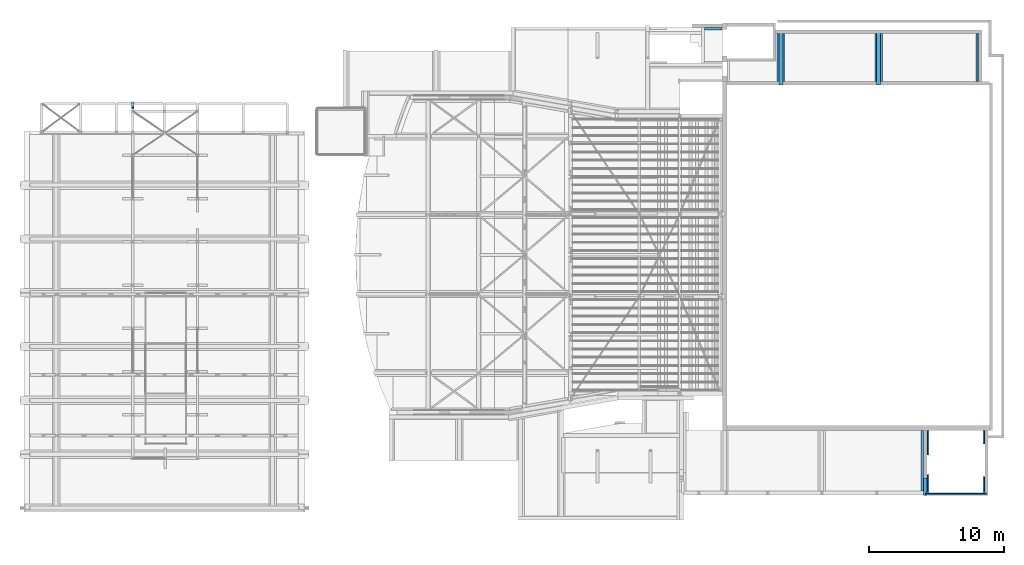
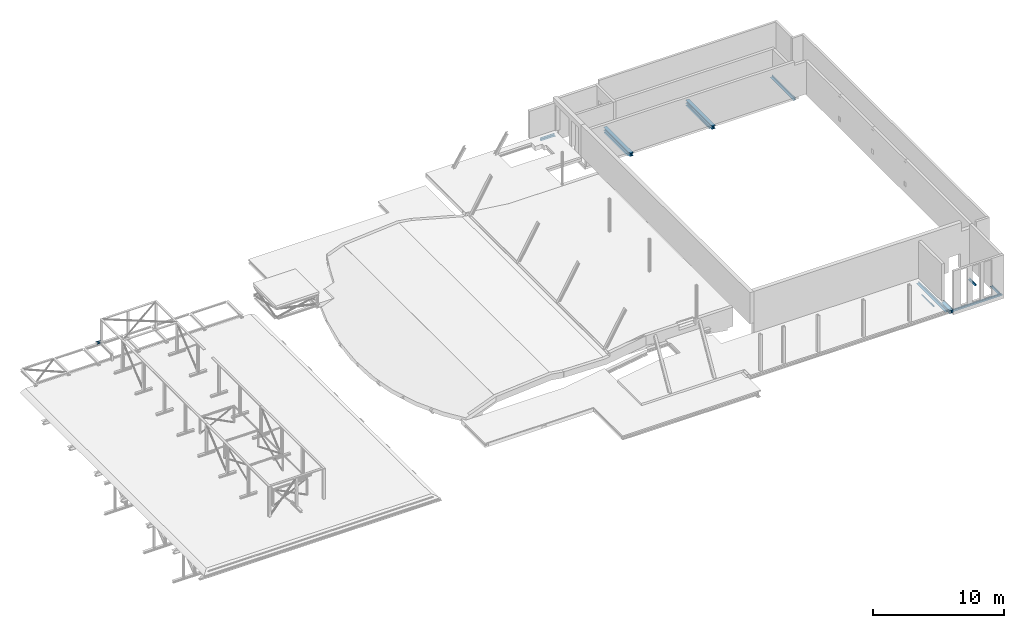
# One storey, part 34 of 50: 12 beams.
"""IFC2X3 building model written with IfcOpenShell, lengths in millimetres."""

from ifc_helpers import new_model, entity, si_unit, converted_unit, derived_unit, direction, frame, frame_2d, origin, place, context, subcontext, project, spatial, polyline, circle_curve, parameter, trimmed, segment, composite_curve, rectangle, i_section, outline, extrude, clip, halfspace, source, transform, mapped, material, material_list, type_object, type_shapes, element, save


model = new_model("IFC2X3")

# Units and contexts
model_context = context("Model", 3, precision=0.01, world=origin(), true_north=direction((6.12303176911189e-17, 1.0)))
body_context = subcontext(model_context, "Body", "Model", "MODEL_VIEW")
ifc_project = project(units=[si_unit("LENGTHUNIT", "METRE", prefix="MILLI"), si_unit("AREAUNIT", "SQUARE_METRE", prefix="MILLI"), si_unit("VOLUMEUNIT", "CUBIC_METRE"), converted_unit("PLANEANGLEUNIT", "DEGREE", entity("IfcRatioMeasure", 0.0174532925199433), si_unit("PLANEANGLEUNIT", "RADIAN"), dimensions=[0, 0, 0, 0, 0, 0, 0]), si_unit("MASSUNIT", "GRAM", prefix="KILO"), derived_unit("MASSDENSITYUNIT", [(si_unit("MASSUNIT", "GRAM", prefix="KILO"), 1), (si_unit("LENGTHUNIT", "METRE"), -3)]), derived_unit("MOMENTOFINERTIAUNIT", [(si_unit("LENGTHUNIT", "METRE"), 4)]), si_unit("TIMEUNIT", "SECOND"), si_unit("FREQUENCYUNIT", "HERTZ"), si_unit("THERMODYNAMICTEMPERATUREUNIT", "DEGREE_CELSIUS"), derived_unit("THERMALTRANSMITTANCEUNIT", [(si_unit("MASSUNIT", "GRAM", prefix="KILO"), 1), (si_unit("THERMODYNAMICTEMPERATUREUNIT", "KELVIN"), -1), (si_unit("TIMEUNIT", "SECOND"), -3)]), derived_unit("VOLUMETRICFLOWRATEUNIT", [(si_unit("LENGTHUNIT", "METRE"), 3), (si_unit("TIMEUNIT", "SECOND"), -1)]), si_unit("ELECTRICCURRENTUNIT", "AMPERE"), si_unit("ELECTRICVOLTAGEUNIT", "VOLT"), si_unit("POWERUNIT", "WATT"), si_unit("FORCEUNIT", "NEWTON", prefix="KILO"), si_unit("ILLUMINANCEUNIT", "LUX"), si_unit("LUMINOUSFLUXUNIT", "LUMEN"), si_unit("LUMINOUSINTENSITYUNIT", "CANDELA"), derived_unit("USERDEFINED", [(si_unit("MASSUNIT", "GRAM", prefix="KILO"), -1), (si_unit("LENGTHUNIT", "METRE"), -2), (si_unit("TIMEUNIT", "SECOND"), 3), (si_unit("LUMINOUSFLUXUNIT", "LUMEN"), 1)]), derived_unit("LINEARVELOCITYUNIT", [(si_unit("LENGTHUNIT", "METRE"), 1), (si_unit("TIMEUNIT", "SECOND"), -1)]), si_unit("PRESSUREUNIT", "PASCAL"), derived_unit("USERDEFINED", [(si_unit("LENGTHUNIT", "METRE"), -2), (si_unit("MASSUNIT", "GRAM", prefix="KILO"), 1), (si_unit("TIMEUNIT", "SECOND"), -2)]), derived_unit("LINEARFORCEUNIT", [(si_unit("MASSUNIT", "GRAM", prefix="KILO"), 1), (si_unit("LENGTHUNIT", "METRE"), 1), (si_unit("TIMEUNIT", "SECOND"), -2), (si_unit("LENGTHUNIT", "METRE"), -1)]), derived_unit("PLANARFORCEUNIT", [(si_unit("MASSUNIT", "GRAM", prefix="KILO"), 1), (si_unit("LENGTHUNIT", "METRE"), 1), (si_unit("TIMEUNIT", "SECOND"), -2), (si_unit("LENGTHUNIT", "METRE"), -2)])], contexts=[model_context])

# Site, building, storey
site_placement = place(None, origin())
site = spatial("IfcSite", under=ifc_project, at=site_placement, Name="Theater aan de Parade", CompositionType="ELEMENT")
building_placement = place(site_placement, origin())
building = spatial("IfcBuilding", under=site, at=building_placement, Name="Theater aan de Parade", CompositionType="ELEMENT")
storey_placement = place(building_placement, frame((0.0, 0.0, 15820.0)))
storey = spatial("IfcBuildingStorey", under=building, at=storey_placement, Name="04 vierde verdieping", CompositionType="ELEMENT", Elevation=15820.0)

# Beams
ifc_material_1 = material(Name="00_PBT_MAT_staal_S355")
beam_type_1 = type_object("IfcBeamType", Name="28_PBT_SF_staal_H-profiel (void):S355_HE280B", PredefinedType="NOTDEFINED")
beam_1_placement = place(storey_placement, frame((82360.0084217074, 15925.0, 0.0), z_axis=(0.0, 0.0, 1.0), x_axis=(0.0, -1.0, 0.0)))
element("IfcBeam", 1, at=beam_1_placement, inside=storey, type_object=beam_type_1, material=ifc_material_1, Name="28_PBT_SF_staal_H-profiel (void):S355_HE280B", ObjectType="28_PBT_SF_staal_H-profiel (void):S355_HE280B", context=body_context, shape_type="SweptSolid", body=[
    extrude(outline(composite_curve([segment(polyline([(122.0, -140.0), (140.0, -140.0)]), True, "CONTINUOUS"), segment(polyline([(140.0, -140.0), (140.0, 140.0)]), True, "CONTINUOUS"), segment(polyline([(140.0, 140.0), (122.0, 140.0)]), True, "CONTINUOUS"), segment(polyline([(122.0, 140.0), (122.0, 29.250000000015)]), True, "CONTINUOUS"), segment(trimmed(circle_curve(frame_2d((98.0, 29.2499999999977), x_axis=(1.0, 0.0)), 23.9999999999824), [parameter(269.999999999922)], [parameter(0.0)], True, "PARAMETER"), False, "CONTINUOUS"), segment(polyline([(98.0, 5.25000000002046), (-98.0, 5.25000000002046)]), True, "CONTINUOUS"), segment(trimmed(circle_curve(frame_2d((-98.0, 29.2499999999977), x_axis=(0.0, -1.0)), 23.9999999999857), [parameter(269.999999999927)], [parameter(0.0)], True, "PARAMETER"), False, "CONTINUOUS"), segment(polyline([(-122.0, 29.250000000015), (-122.0, 140.0)]), True, "CONTINUOUS"), segment(polyline([(-122.0, 140.0), (-140.0, 140.0)]), True, "CONTINUOUS"), segment(polyline([(-140.0, 140.0), (-140.0, -140.0)]), True, "CONTINUOUS"), segment(polyline([(-140.0, -140.0), (-122.0, -140.0)]), True, "CONTINUOUS"), segment(polyline([(-122.0, -140.0), (-122.0, -29.2499999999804)]), True, "CONTINUOUS"), segment(trimmed(circle_curve(frame_2d((-98.0, -29.249999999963), x_axis=(-1.0, 0.0)), 23.9999999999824), [parameter(269.999999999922)], [parameter(0.0)], True, "PARAMETER"), False, "CONTINUOUS"), segment(polyline([(-98.0, -5.24999999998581), (98.0, -5.24999999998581)]), True, "CONTINUOUS"), segment(trimmed(circle_curve(frame_2d((98.0, -29.249999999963), x_axis=(0.0, 1.0)), 23.9999999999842), [parameter(269.999999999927)], [parameter(0.0)], True, "PARAMETER"), False, "CONTINUOUS"), segment(polyline([(122.0, -29.2499999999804), (122.0, -140.0)]), True, "CONTINUOUS")], self_intersect=False)), frame((0.0, 0.0, 365.0), z_axis=(1.0, 0.0, 0.0), x_axis=(0.0, 0.0, -1.0)), (0.0, 0.0, 1.0), 1274.99999999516),
])
beam_type_2 = type_object("IfcBeamType", Name="28_PBT_SF_staal_L-profiel:S355_L150x150x15", PredefinedType="NOTDEFINED")
beam_2_placement = place(storey_placement, frame((82542.5084217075, 14850.0, 0.0), z_axis=(0.0, 0.0, 1.0), x_axis=(0.0, 1.0, 0.0)))
element("IfcBeam", 2, at=beam_2_placement, inside=storey, type_object=beam_type_2, material=ifc_material_1, Name="28_PBT_SF_staal_L-profiel:S355_L150x150x15", ObjectType="28_PBT_SF_staal_L-profiel:S355_L150x150x15", context=body_context, shape_type="SweptSolid", body=[
    extrude(outline(composite_curve([segment(polyline([(49.6666666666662, -93.3333333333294), (56.6666666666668, -93.3333333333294)]), True, "CONTINUOUS"), segment(polyline([(56.6666666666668, -93.3333333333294), (56.6666666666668, 56.6666666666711)]), True, "CONTINUOUS"), segment(polyline([(56.6666666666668, 56.6666666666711), (-93.3333333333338, 56.6666666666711)]), True, "CONTINUOUS"), segment(polyline([(-93.3333333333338, 56.6666666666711), (-93.3333333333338, 49.6666666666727)]), True, "CONTINUOUS"), segment(trimmed(circle_curve(frame_2d((-85.3333333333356, 49.6666666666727), x_axis=(-1.0, 0.0)), 7.99999999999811), [parameter(0.0)], [parameter(90.0000000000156)], True, "PARAMETER"), True, "CONTINUOUS"), segment(polyline([(-85.3333333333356, 41.6666666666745), (25.6666666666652, 41.6666666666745)]), True, "CONTINUOUS"), segment(trimmed(circle_curve(frame_2d((25.6666666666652, 25.6666666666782), x_axis=(0.0, 1.0)), 15.9999999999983), [parameter(270.0)], [parameter(0.0)], True, "PARAMETER"), False, "CONTINUOUS"), segment(polyline([(41.6666666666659, 25.6666666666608), (41.6666666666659, -85.3333333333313)]), True, "CONTINUOUS"), segment(trimmed(circle_curve(frame_2d((49.6666666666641, -85.3333333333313), x_axis=(-1.0, 0.0)), 7.99999999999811), [parameter(0.0)], [parameter(90.0000000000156)], True, "PARAMETER"), True, "CONTINUOUS")], self_intersect=False)), frame((0.0, -14.1666666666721, 431.666666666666), z_axis=(1.0, 0.0, 0.0), x_axis=(0.0, 0.0, -1.0)), (0.0, 0.0, 1.0), 1330.00004821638),
])
beam_3_placement = place(storey_placement, frame((82542.5084217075, 17648.44495211, 0.0), z_axis=(0.0, 0.0, 1.0), x_axis=(0.0, 1.0, 0.0)))
element("IfcBeam", 3, at=beam_3_placement, inside=storey, type_object=beam_type_2, material=ifc_material_1, Name="28_PBT_SF_staal_L-profiel:S355_L150x150x15", ObjectType="28_PBT_SF_staal_L-profiel:S355_L150x150x15", context=body_context, shape_type="SweptSolid", body=[
    extrude(outline(composite_curve([segment(polyline([(49.6666666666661, -93.3333333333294), (56.6666666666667, -93.3333333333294)]), True, "CONTINUOUS"), segment(polyline([(56.6666666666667, -93.3333333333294), (56.6666666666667, 56.6666666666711)]), True, "CONTINUOUS"), segment(polyline([(56.6666666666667, 56.6666666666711), (-93.3333333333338, 56.6666666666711)]), True, "CONTINUOUS"), segment(polyline([(-93.3333333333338, 56.6666666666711), (-93.3333333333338, 49.6666666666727)]), True, "CONTINUOUS"), segment(trimmed(circle_curve(frame_2d((-85.3333333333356, 49.6666666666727), x_axis=(-1.0, 0.0)), 7.99999999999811), [parameter(0.0)], [parameter(90.0000000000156)], True, "PARAMETER"), True, "CONTINUOUS"), segment(polyline([(-85.3333333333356, 41.6666666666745), (25.6666666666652, 41.6666666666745)]), True, "CONTINUOUS"), segment(trimmed(circle_curve(frame_2d((25.6666666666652, 25.6666666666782), x_axis=(0.0, 1.0)), 15.9999999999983), [parameter(270.0)], [parameter(0.0)], True, "PARAMETER"), False, "CONTINUOUS"), segment(polyline([(41.6666666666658, 25.6666666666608), (41.6666666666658, -85.3333333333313)]), True, "CONTINUOUS"), segment(trimmed(circle_curve(frame_2d((49.666666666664, -85.3333333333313), x_axis=(-1.0, 0.0)), 7.99999999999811), [parameter(0.0)], [parameter(90.0000000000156)], True, "PARAMETER"), True, "CONTINUOUS")], self_intersect=False)), frame((0.0, -14.1666666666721, -1003.33333333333), z_axis=(1.0, 0.0, 0.0), x_axis=(0.0, 0.0, -1.0)), (0.0, 0.0, 1.0), 1811.5552914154),
])
beam_4_placement = place(storey_placement, frame((86723.499999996, 18437.70736927, 0.0), z_axis=(0.0, 0.0, 1.0), x_axis=(0.0, 1.0, 0.0)))
element("IfcBeam", 4, at=beam_4_placement, inside=storey, type_object=beam_type_2, material=ifc_material_1, Name="28_PBT_SF_staal_L-profiel:S355_L150x150x15", ObjectType="28_PBT_SF_staal_L-profiel:S355_L150x150x15", context=body_context, shape_type="SweptSolid", body=[
    extrude(outline(composite_curve([segment(polyline([(-93.3333333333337, -56.6666666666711), (56.6666666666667, -56.6666666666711)]), True, "CONTINUOUS"), segment(polyline([(56.6666666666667, -56.6666666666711), (56.6666666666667, 93.3333333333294)]), True, "CONTINUOUS"), segment(polyline([(56.6666666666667, 93.3333333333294), (49.6666666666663, 93.3333333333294)]), True, "CONTINUOUS"), segment(trimmed(circle_curve(frame_2d((49.6666666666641, 85.3333333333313), x_axis=(0.0, 1.0)), 7.99999999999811), [parameter(0.0)], [parameter(90.0000000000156)], True, "PARAMETER"), True, "CONTINUOUS"), segment(polyline([(41.6666666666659, 85.3333333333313), (41.6666666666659, -25.6666666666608)]), True, "CONTINUOUS"), segment(trimmed(circle_curve(frame_2d((25.6666666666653, -25.6666666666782), x_axis=(1.0, 0.0)), 15.9999999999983), [parameter(270.0)], [parameter(0.0)], True, "PARAMETER"), False, "CONTINUOUS"), segment(polyline([(25.6666666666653, -41.6666666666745), (-85.3333333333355, -41.6666666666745)]), True, "CONTINUOUS"), segment(trimmed(circle_curve(frame_2d((-85.3333333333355, -49.6666666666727), x_axis=(0.0, 1.0)), 7.99999999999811), [parameter(0.0)], [parameter(90.0000000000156)], True, "PARAMETER"), True, "CONTINUOUS"), segment(polyline([(-93.3333333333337, -49.6666666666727), (-93.3333333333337, -56.6666666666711)]), True, "CONTINUOUS")], self_intersect=False)), frame((0.0, 14.1666666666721, -973.333333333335), z_axis=(1.0, 0.0, 0.0), x_axis=(0.0, 0.0, -1.0)), (0.0, 0.0, 1.0), 1022.29287425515),
])
beam_5_placement = place(storey_placement, frame((86723.499999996, 14850.0, 0.0), z_axis=(0.0, 0.0, 1.0), x_axis=(0.0, 1.0, 0.0)))
element("IfcBeam", 5, at=beam_5_placement, inside=storey, type_object=beam_type_2, material=ifc_material_1, Name="28_PBT_SF_staal_L-profiel:S355_L150x150x15", ObjectType="28_PBT_SF_staal_L-profiel:S355_L150x150x15", context=body_context, shape_type="SweptSolid", body=[
    extrude(outline(composite_curve([segment(polyline([(-93.3333333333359, -56.6666666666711), (56.6666666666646, -56.6666666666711)]), True, "CONTINUOUS"), segment(polyline([(56.6666666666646, -56.6666666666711), (56.6666666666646, 93.3333333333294)]), True, "CONTINUOUS"), segment(polyline([(56.6666666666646, 93.3333333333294), (49.6666666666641, 93.3333333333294)]), True, "CONTINUOUS"), segment(trimmed(circle_curve(frame_2d((49.6666666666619, 85.3333333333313), x_axis=(0.0, 1.0)), 7.99999999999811), [parameter(0.0)], [parameter(90.0000000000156)], True, "PARAMETER"), True, "CONTINUOUS"), segment(polyline([(41.6666666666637, 85.3333333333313), (41.6666666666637, -25.6666666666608)]), True, "CONTINUOUS"), segment(trimmed(circle_curve(frame_2d((25.666666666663, -25.6666666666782), x_axis=(1.0, 0.0)), 15.9999999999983), [parameter(270.0)], [parameter(0.0)], True, "PARAMETER"), False, "CONTINUOUS"), segment(polyline([(25.666666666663, -41.6666666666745), (-85.3333333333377, -41.6666666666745)]), True, "CONTINUOUS"), segment(trimmed(circle_curve(frame_2d((-85.3333333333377, -49.6666666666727), x_axis=(0.0, 1.0)), 7.99999999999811), [parameter(0.0)], [parameter(90.0000000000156)], True, "PARAMETER"), True, "CONTINUOUS"), segment(polyline([(-93.3333333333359, -49.6666666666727), (-93.3333333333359, -56.6666666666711)]), True, "CONTINUOUS")], self_intersect=False)), frame((0.0, 14.1666666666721, 431.666666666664), z_axis=(1.0, 0.0, 0.0), x_axis=(0.0, 0.0, -1.0)), (0.0, 0.0, 1.0), 1210.00004819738),
])
beam_type_3 = type_object("IfcBeamType", Name="28_PBT_SF_staal_L-profiel:S355_L200x200x20", PredefinedType="NOTDEFINED")
beam_6_placement = place(storey_placement, frame((86248.3683175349, 48822.0, 0.0), z_axis=(0.0, 0.0, 1.0), x_axis=(0.0, -1.0, 0.0)))
element("IfcBeam", 6, at=beam_6_placement, inside=storey, type_object=beam_type_3, material=ifc_material_1, Name="28_PBT_SF_staal_L-profiel:S355_L200x200x20", ObjectType="28_PBT_SF_staal_L-profiel:S355_L200x200x20", context=body_context, shape_type="SweptSolid", body=[
    extrude(outline(composite_curve([segment(polyline([(64.5555555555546, -124.444444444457), (75.5555555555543, -124.444444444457)]), True, "CONTINUOUS"), segment(polyline([(75.5555555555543, -124.444444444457), (75.5555555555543, 75.5555555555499)]), True, "CONTINUOUS"), segment(polyline([(75.5555555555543, 75.5555555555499), (-124.444444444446, 75.5555555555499)]), True, "CONTINUOUS"), segment(polyline([(-124.444444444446, 75.5555555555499), (-124.444444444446, 64.5555555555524)]), True, "CONTINUOUS"), segment(trimmed(circle_curve(frame_2d((-115.444444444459, 64.5555555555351), x_axis=(-1.0, 0.0)), 8.99999999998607), [parameter(0.0)], [parameter(90.0000000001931)], True, "PARAMETER"), True, "CONTINUOUS"), segment(polyline([(-115.444444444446, 55.5555555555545), (37.5555555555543, 55.5555555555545)]), True, "CONTINUOUS"), segment(trimmed(circle_curve(frame_2d((37.5555555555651, 37.5555555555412), x_axis=(0.0, 1.0)), 17.9999999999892), [parameter(269.999999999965)], [parameter(0.0)], True, "PARAMETER"), False, "CONTINUOUS"), segment(polyline([(55.5555555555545, 37.5555555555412), (55.5555555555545, -115.444444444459)]), True, "CONTINUOUS"), segment(trimmed(circle_curve(frame_2d((64.5555555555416, -115.444444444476), x_axis=(-1.0, 0.0)), 8.99999999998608), [parameter(0.0)], [parameter(90.0000000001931)], True, "PARAMETER"), True, "CONTINUOUS")], self_intersect=False)), frame((0.0, -18.7555555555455, 275.555555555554), z_axis=(1.0, 0.0, 0.0), x_axis=(0.0, 0.0, -1.0)), (0.0, 0.0, 1.0), 3561.99999999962),
])
beam_7_placement = place(storey_placement, frame((82193.2084217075, 14982.0, 0.0), z_axis=(0.0, 0.0, 1.0), x_axis=(0.0, 1.0, 0.0)))
element("IfcBeam", 7, at=beam_7_placement, inside=storey, type_object=beam_type_3, material=ifc_material_1, Name="28_PBT_SF_staal_L-profiel:S355_L200x200x20", ObjectType="28_PBT_SF_staal_L-profiel:S355_L200x200x20", context=body_context, shape_type="SweptSolid", body=[
    extrude(outline(composite_curve([segment(polyline([(-124.444444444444, -75.5555555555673), (75.5555555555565, -75.5555555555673)]), True, "CONTINUOUS"), segment(polyline([(75.5555555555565, -75.5555555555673), (75.5555555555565, 124.444444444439)]), True, "CONTINUOUS"), segment(polyline([(75.5555555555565, 124.444444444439), (64.5555555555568, 124.444444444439)]), True, "CONTINUOUS"), segment(trimmed(circle_curve(frame_2d((64.5555555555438, 115.444444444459), x_axis=(0.0, 1.0)), 8.99999999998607), [parameter(0.0)], [parameter(90.0000000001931)], True, "PARAMETER"), True, "CONTINUOUS"), segment(polyline([(55.5555555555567, 115.444444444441), (55.5555555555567, -37.5555555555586)]), True, "CONTINUOUS"), segment(trimmed(circle_curve(frame_2d((37.5555555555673, -37.5555555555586), x_axis=(1.0, 0.0)), 17.9999999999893), [parameter(269.999999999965)], [parameter(0.0)], True, "PARAMETER"), False, "CONTINUOUS"), segment(polyline([(37.5555555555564, -55.5555555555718), (-115.444444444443, -55.5555555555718)]), True, "CONTINUOUS"), segment(trimmed(circle_curve(frame_2d((-115.444444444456, -64.5555555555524), x_axis=(0.0, 1.0)), 8.99999999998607), [parameter(0.0)], [parameter(90.0000000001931)], True, "PARAMETER"), True, "CONTINUOUS"), segment(polyline([(-124.444444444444, -64.5555555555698), (-124.444444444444, -75.5555555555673)]), True, "CONTINUOUS")], self_intersect=False)), frame((0.0, 18.7555555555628, 275.555555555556), z_axis=(1.0, 0.0, 0.0), x_axis=(0.0, 0.0, -1.0)), (0.0, 0.0, 1.0), 4465.30024352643),
])
beam_8_placement = place(storey_placement, frame((66023.8822523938, 49205.1979908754, 0.0)))
element("IfcBeam", 8, at=beam_8_placement, inside=storey, type_object=beam_type_3, material=ifc_material_1, Name="28_PBT_SF_staal_L-profiel:S355_L200x200x20", ObjectType="28_PBT_SF_staal_L-profiel:S355_L200x200x20", context=body_context, shape_type="SweptSolid", body=[
    extrude(outline(composite_curve([segment(polyline([(64.5555555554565, -124.44444444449), (75.5555555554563, -124.44444444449)]), True, "CONTINUOUS"), segment(polyline([(75.5555555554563, -124.444444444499), (75.5555555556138, 75.5555555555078)]), True, "CONTINUOUS"), segment(polyline([(75.5555555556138, 75.5555555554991), (-124.444444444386, 75.5555555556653)]), True, "CONTINUOUS"), segment(polyline([(-124.444444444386, 75.5555555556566), (-124.444444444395, 64.5555555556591)]), True, "CONTINUOUS"), segment(trimmed(circle_curve(frame_2d((-115.444444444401, 64.555555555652), x_axis=(-1.0, 0.0)), 8.99999999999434), [parameter(0.0)], [parameter(90.0000000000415)], True, "PARAMETER"), True, "CONTINUOUS"), segment(polyline([(-115.444444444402, 55.5555555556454), (37.555555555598, 55.5555555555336)]), True, "CONTINUOUS"), segment(trimmed(circle_curve(frame_2d((37.5555555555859, 37.5555555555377), x_axis=(0.0, 1.0)), 17.9999999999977), [parameter(269.999999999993)], [parameter(0.0)], True, "PARAMETER"), False, "CONTINUOUS"), segment(polyline([(55.5555555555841, 37.5555555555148), (55.5555555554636, -115.444444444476)]), True, "CONTINUOUS"), segment(trimmed(circle_curve(frame_2d((64.5555555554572, -115.444444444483), x_axis=(-1.0, 0.0)), 8.99999999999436), [parameter(0.0)], [parameter(90.0000000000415)], True, "PARAMETER"), True, "CONTINUOUS")], self_intersect=False)), frame((0.0, -18.7555555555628, 1220.55555555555), z_axis=(1.0, 0.0, 0.0), x_axis=(0.0, 0.0, -1.0)), (0.0, 0.0, 1.0), 1300.00000396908),
])
ifc_material_2 = material(Name="00_PBT_MAT_Lucht")
ifc_material_list_1 = material_list([ifc_material_1, ifc_material_2])
beam_type_4 = type_object("IfcBeamType", Name="28_PBT_SF_staal_H-profiel_met_onderplaat (void):S355_HE300B + onderplaat d=15", PredefinedType="BEAM", material=ifc_material_list_1)
shared_shape_1 = source(origin(), body_context, "Body", "SweptSolid", [
    extrude(i_section(OverallWidth=300.000000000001, OverallDepth=300.000000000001, WebThickness=10.9999999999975, FlangeThickness=18.9999999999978, FilletRadius=26.9999999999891, at=frame_2d((1.73230318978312e-11, -2.17426077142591e-12), x_axis=(1.0, 0.0))), frame((78920.0, 49072.0, 16190.0), z_axis=(0.0, -1.0, 0.0), x_axis=(-1.0, 0.0, 0.0)), (0.0, 0.0, 1.0), 4061.99999999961),
    extrude(rectangle(XDim=15.0000000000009, YDim=549.999999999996, at=frame_2d((8.66862137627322e-12, -1.08268949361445e-12), x_axis=(0.0, 1.0))), frame((78920.0, 48822.0, 16032.5), z_axis=(0.0, -1.0, 0.0), x_axis=(-1.0, 0.0, 0.0)), (0.0, 0.0, 1.0), 3561.99999999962),
])
type_shapes(beam_type_4, [shared_shape_1])
beam_9_placement = place(storey_placement, frame((0.0, 0.0, -15820.0)))
element("IfcBeam", 9, at=beam_9_placement, inside=storey, type_object=beam_type_4, material=ifc_material_1, Name="28_PBT_SF_staal_H-profiel_met_onderplaat (void):S355_HE300B + onderplaat d=15", ObjectType="28_PBT_SF_staal_H-profiel_met_onderplaat (void):S355_HE300B + onderplaat d=15", context=body_context, shape_type="MappedRepresentation", body=[
    mapped(shared_shape_1, transform((0.0, 0.0, 0.0), scale=1.0)),
])
ifc_material_list_2 = material_list([ifc_material_1, ifc_material_2])
beam_type_5 = type_object("IfcBeamType", Name="28_PBT_SF_staal_H-profiel_met_onderplaat (void):S355_HE300B + onderplaat d=15", PredefinedType="BEAM", material=ifc_material_list_2)
shared_shape_2 = source(origin(), body_context, "Body", "SweptSolid", [
    extrude(i_section(OverallWidth=300.000000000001, OverallDepth=299.999999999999, WebThickness=10.9999999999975, FlangeThickness=19.0, FilletRadius=27.0000000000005, at=frame_2d((0.0, 2.17426077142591e-12), x_axis=(1.0, 0.0))), frame((71681.4091214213, 49072.0, 16190.0), z_axis=(0.0, -1.0, 0.0), x_axis=(-1.0, 0.0, 0.0)), (0.0, 0.0, 1.0), 4061.9999999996),
    extrude(rectangle(XDim=15.0000000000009, YDim=550.000000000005, at=frame_2d((-4.34852154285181e-12, -1.08268949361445e-12), x_axis=(0.0, 1.0))), frame((71681.4091214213, 48822.0, 16032.5), z_axis=(0.0, -1.0, 0.0), x_axis=(-1.0, 0.0, 0.0)), (0.0, 0.0, 1.0), 3561.99999999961),
])
type_shapes(beam_type_5, [shared_shape_2])
beam_10_placement = place(storey_placement, frame((0.0, 0.0, -15820.0)))
element("IfcBeam", 10, at=beam_10_placement, inside=storey, type_object=beam_type_5, material=ifc_material_1, Name="28_PBT_SF_staal_H-profiel_met_onderplaat (void):S355_HE300B + onderplaat d=15", ObjectType="28_PBT_SF_staal_H-profiel_met_onderplaat (void):S355_HE300B + onderplaat d=15", context=body_context, shape_type="MappedRepresentation", body=[
    mapped(shared_shape_2, transform((0.0, 0.0, 0.0), scale=1.0)),
])
beam_type_6 = type_object("IfcBeamType", Name="28_PBT_SF_staal_H-profiel:S355_HE200B", PredefinedType="NOTDEFINED")
beam_11_placement = place(storey_placement, frame((23753.8569986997, 43835.8115523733, 410.724229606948), z_axis=(0.0, 0.598287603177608, 0.801281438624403), x_axis=(0.0, -0.801281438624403, 0.598287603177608)))
element("IfcBeam", 11, at=beam_11_placement, inside=storey, type_object=beam_type_6, material=ifc_material_1, Name="28_PBT_SF_staal_H-profiel:S355_HE200B", ObjectType="28_PBT_SF_staal_H-profiel:S355_HE200B", context=body_context, shape_type="Clipping", body=[
    clip(clip(extrude(i_section(OverallWidth=200.000000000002, OverallDepth=199.999999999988, WebThickness=9.00000000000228, FlangeThickness=14.9999999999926, FilletRadius=18.0000000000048, at=frame_2d((-1.73372427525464e-12, -6.50146603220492e-12), x_axis=(0.0, 1.0))), frame((117.461518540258, 0.0, -100.0), z_axis=(1.0, 0.0, 0.0), x_axis=(0.0, 0.0, -1.0)), (0.0, 0.0, 1.0), 533.188383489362), halfspace(frame((117.46151854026, -452.921503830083, 0.0), z_axis=(-0.893948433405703, 0.0, -0.448169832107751), x_axis=(-0.448169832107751, 0.0, 0.893948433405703)), False)), halfspace(frame((650.649902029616, -452.921503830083, 0.0), z_axis=(0.949020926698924, 0.0, -0.315213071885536), x_axis=(0.315213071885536, 0.0, 0.949020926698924)), False)),
])
beam_type_7 = type_object("IfcBeamType", Name="28_PBT_SF_staal_H-profiel:S355_HE160A(Z)", PredefinedType="NOTDEFINED")
beam_12_placement = place(storey_placement, frame((86891.0, 14750.0, 0.0), z_axis=(0.0, 0.0, 1.0), x_axis=(-1.0, 0.0, 0.0)))
element("IfcBeam", 12, at=beam_12_placement, inside=storey, type_object=beam_type_7, material=ifc_material_1, Name="28_PBT_SF_staal_H-profiel:S355_HE160A(Z)", ObjectType="28_PBT_SF_staal_H-profiel:S355_HE160A(Z)", context=body_context, shape_type="SweptSolid", body=[
    extrude(i_section(OverallWidth=160.0, OverallDepth=152.0, WebThickness=6.00000000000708, FlangeThickness=9.00000000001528, FilletRadius=15.0000000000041, at=frame_2d((-1.08002495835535e-12, 2.16715534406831e-12), x_axis=(1.0, 0.0))), frame((0.0, 0.0, 365.0), z_axis=(1.0, 0.0, 0.0), x_axis=(0.0, 0.0, -1.0)), (0.0, 0.0, 1.0), 4525.74157828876),
])

save(model, "model.ifc")
